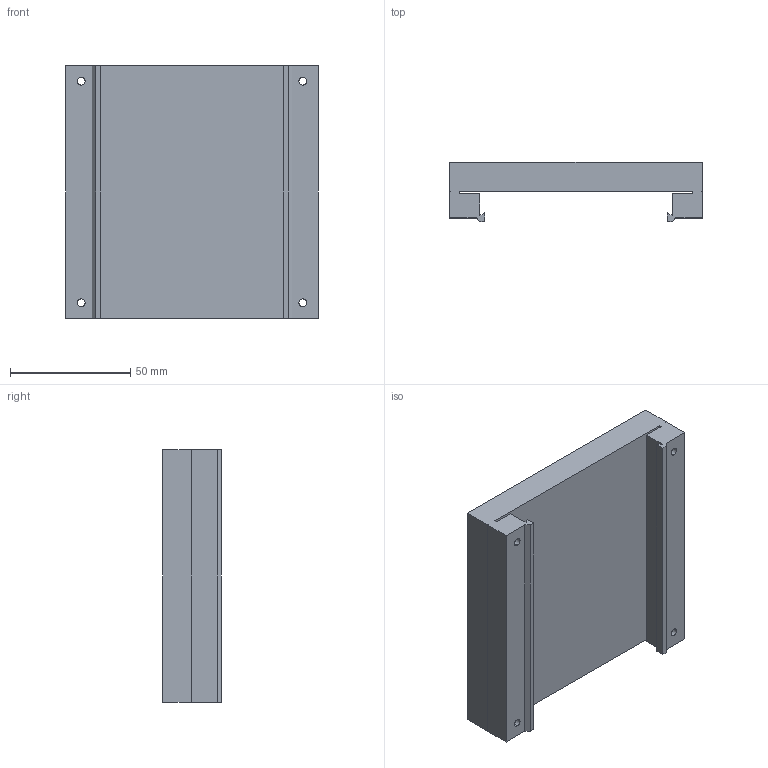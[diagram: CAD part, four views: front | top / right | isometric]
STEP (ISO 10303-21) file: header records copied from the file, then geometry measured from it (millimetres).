
FILE_DESCRIPTION (( 'STEP AP203' ), '1' );
FILE_NAME ('Montageplatte M 80.STEP', '2002-07-08T12:53:42', ( '' ), ( '' ), 'SwSTEP 2.0', 'SolidWorks 2002127', '' );
FILE_SCHEMA (( 'CONFIG_CONTROL_DESIGN' ));
Length unit declared in the file: millimetre
Products named in the file (1): Montageplatte M 80
Bounding box: 105 x 24.5 x 105 mm (x, y, z)
Volume: 159130.5 mm3; surface area: 38676.9 mm2
Topology: 1 solids, 1 shells, 58 faces, 156 edges, 104 vertices
Faces by surface type: plane 34, cylinder 24
Entity records: 1937 total; most frequent: DIRECTION 322, CARTESIAN_POINT 319, ORIENTED_EDGE 312, EDGE_CURVE 156, LINE 108, VECTOR 108, AXIS2_PLACEMENT_3D 107, VERTEX_POINT 104
